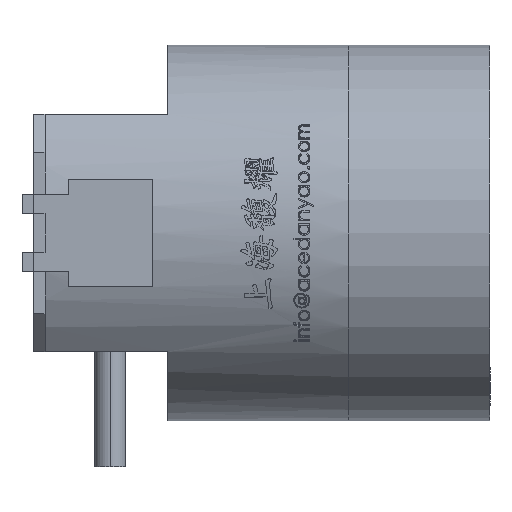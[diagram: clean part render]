
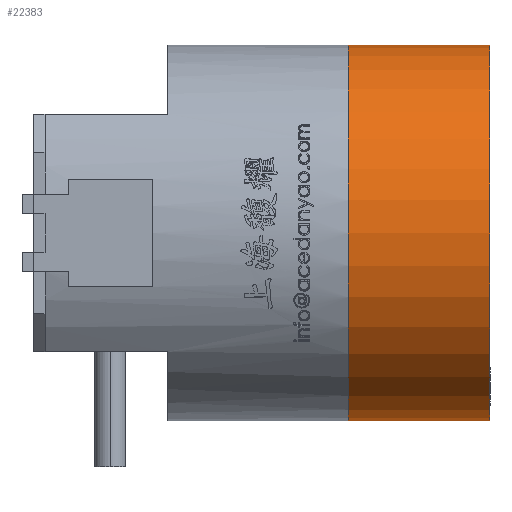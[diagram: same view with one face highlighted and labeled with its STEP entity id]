
A CAD part, left-side view. The second image highlights one B-rep face of the part: STEP entity #22383.
In plain terms, the highlighted cylindrical face has radius 24.5 mm (diameter 49 mm), a partial arc.
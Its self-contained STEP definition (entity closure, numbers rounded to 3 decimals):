
#933 = CARTESIAN_POINT ( 'NONE',  ( 0., 18.5, 24.5 ) ) ;
#2134 = CARTESIAN_POINT ( 'NONE',  ( 0., 18.5, -24.5 ) ) ;
#2449 = VERTEX_POINT ( 'NONE', #31995 ) ;
#2527 = VERTEX_POINT ( 'NONE', #933 ) ;
#3471 = EDGE_CURVE ( 'NONE', #2527, #44464, #64821, .T. ) ;
#4793 = CIRCLE ( 'NONE', #61504, 24.5 ) ;
#6155 = DIRECTION ( 'NONE',  ( 0., -1., 0. ) ) ;
#9259 = FACE_OUTER_BOUND ( 'NONE', #74021, .T. ) ;
#11162 = CARTESIAN_POINT ( 'NONE',  ( 0., 18.5, 0. ) ) ;
#11915 = DIRECTION ( 'NONE',  ( 0., 0., -1. ) ) ;
#15083 = AXIS2_PLACEMENT_3D ( 'NONE', #11162, #51068, #16885 ) ;
#15834 = EDGE_CURVE ( 'NONE', #2449, #44464, #4793, .T. ) ;
#16885 = DIRECTION ( 'NONE',  ( 0., 0., -1. ) ) ;
#19136 = CARTESIAN_POINT ( 'NONE',  ( 0., 18.5, 24.5 ) ) ;
#19228 = ORIENTED_EDGE ( 'NONE', *, *, #15834, .T. ) ;
#19921 = VERTEX_POINT ( 'NONE', #2134 ) ;
#22383 = ADVANCED_FACE ( 'NONE', ( #9259 ), #68202, .T. ) ;
#22784 = ORIENTED_EDGE ( 'NONE', *, *, #72688, .T. ) ;
#22788 = VECTOR ( 'NONE', #64849, 1000. ) ;
#26166 = DIRECTION ( 'NONE',  ( 0., 1., 0. ) ) ;
#30328 = LINE ( 'NONE', #59847, #74031 ) ;
#31995 = CARTESIAN_POINT ( 'NONE',  ( 0., 0., -24.5 ) ) ;
#34190 = EDGE_CURVE ( 'NONE', #19921, #2527, #50897, .T. ) ;
#40056 = AXIS2_PLACEMENT_3D ( 'NONE', #46069, #6155, #11915 ) ;
#44464 = VERTEX_POINT ( 'NONE', #58405 ) ;
#46069 = CARTESIAN_POINT ( 'NONE',  ( 0., 18.5, 0. ) ) ;
#48749 = ORIENTED_EDGE ( 'NONE', *, *, #3471, .F. ) ;
#50897 = CIRCLE ( 'NONE', #15083, 24.5 ) ;
#51068 = DIRECTION ( 'NONE',  ( 0., 1., 0. ) ) ;
#58405 = CARTESIAN_POINT ( 'NONE',  ( 0., 0., 24.5 ) ) ;
#59847 = CARTESIAN_POINT ( 'NONE',  ( 0., 18.5, -24.5 ) ) ;
#60404 = CARTESIAN_POINT ( 'NONE',  ( 0., 0., 0. ) ) ;
#60426 = ORIENTED_EDGE ( 'NONE', *, *, #34190, .F. ) ;
#61504 = AXIS2_PLACEMENT_3D ( 'NONE', #60404, #26166, #66118 ) ;
#64821 = LINE ( 'NONE', #19136, #22788 ) ;
#64849 = DIRECTION ( 'NONE',  ( 0., -1., 0. ) ) ;
#65568 = DIRECTION ( 'NONE',  ( 0., -1., 0. ) ) ;
#66118 = DIRECTION ( 'NONE',  ( 0., 0., -1. ) ) ;
#68202 = CYLINDRICAL_SURFACE ( 'NONE', #40056, 24.5 ) ;
#72688 = EDGE_CURVE ( 'NONE', #19921, #2449, #30328, .T. ) ;
#74021 = EDGE_LOOP ( 'NONE', ( #48749, #60426, #22784, #19228 ) ) ;
#74031 = VECTOR ( 'NONE', #65568, 1000. ) ;
